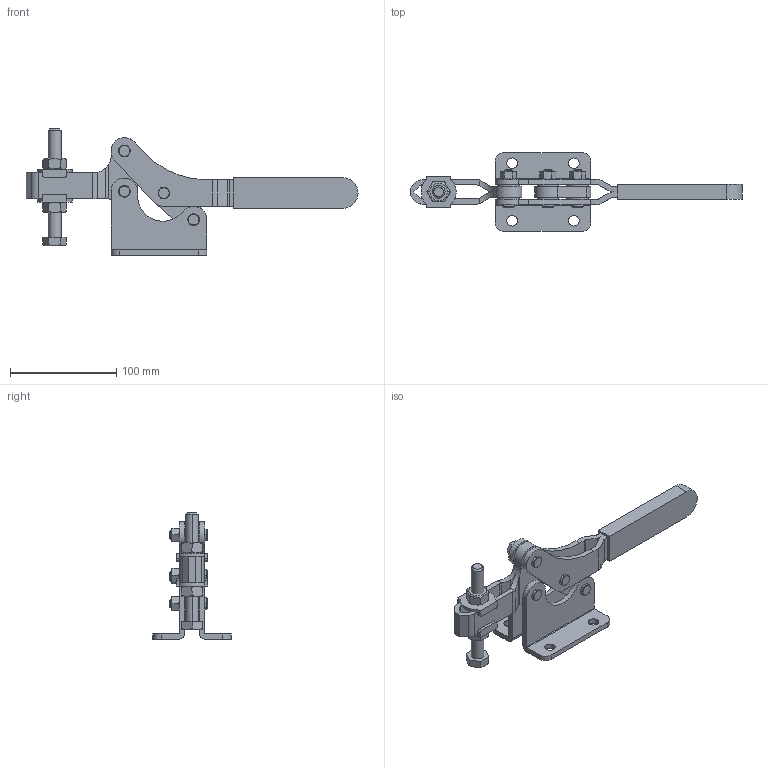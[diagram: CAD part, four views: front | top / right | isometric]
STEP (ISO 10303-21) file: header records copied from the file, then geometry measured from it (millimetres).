
FILE_DESCRIPTION(('CATIA V5 STEP Exchange'),'2;1');
FILE_NAME('D:\Model\toggle\toggle_standard\KJF_065_21F.stp','2005-06-24T03:02:44+00:00',('none'),('none'),'CATIA Version 5 Release 11 (IN-9)','CATIA V5 STEP AP203',' none');
FILE_SCHEMA(('CONFIG_CONTROL_DESIGN'));
Length unit declared in the file: millimetre
Products named in the file (1): Part1
Bounding box: 312 x 74 x 118.89 mm (x, y, z)
Volume: 235258.9 mm3; surface area: 98975 mm2
Topology: 26 solids, 26 shells, 372 faces, 924 edges, 608 vertices
Faces by surface type: plane 167, cylinder 117, cone 78, torus 10
Entity records: 11478 total; most frequent: CARTESIAN_POINT 3347, ORIENTED_EDGE 1848, DIRECTION 1276, EDGE_CURVE 924, VERTEX_POINT 608, AXIS2_PLACEMENT_3D 591, VECTOR 416, LINE 416
